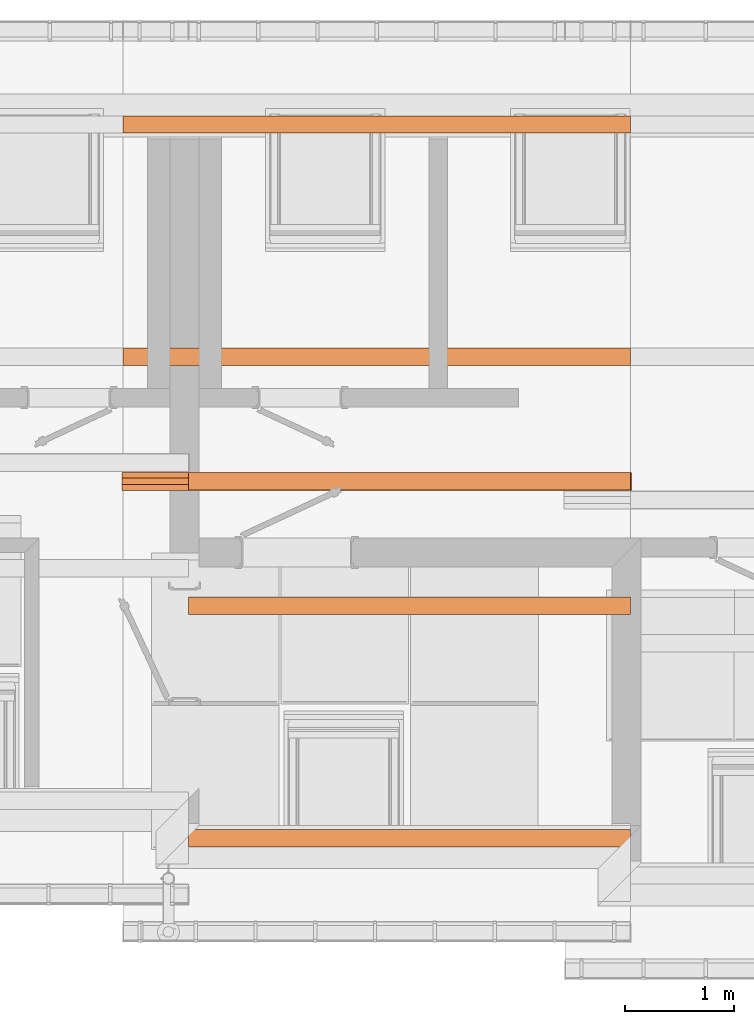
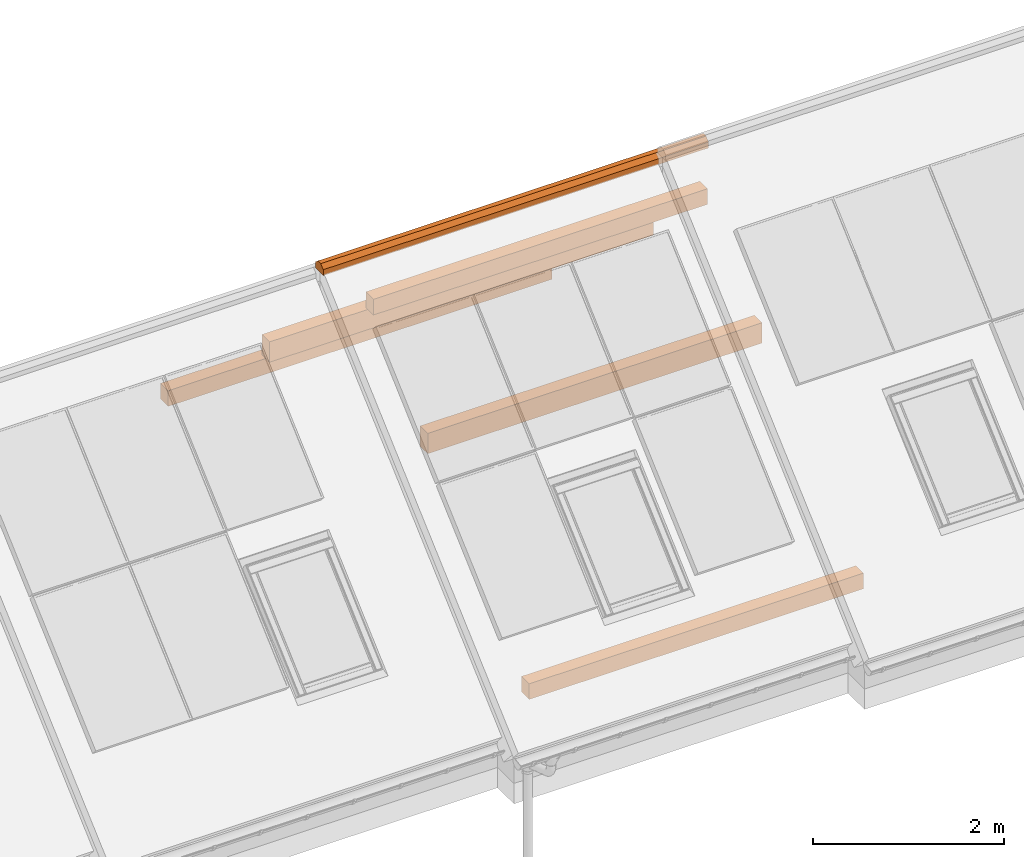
# One storey, part 19 of 43: 6 proxies.
"""IFC2X3 building model written with IfcOpenShell, lengths in millimetres."""

import ifcopenshell
import ifcopenshell.guid

model = None  # the IFC model being written
_history = None  # IfcOwnerHistory: only IFC2X3 demands one
_inside = {}  # id of a spatial element -> (the spatial element, [elements in it])
_under = {}  # id of a project, library or spatial element -> (it, [spatial elements below it])
_declared = {}  # id of a project -> (the project, [libraries it declares])
_typed = {}  # id of a type object -> (the type object, [elements of that type])
_made_of = {}  # id of a material, layer set ... -> (it, [elements and type objects made of it])


def new_model(schema):
    """Start an empty IFC model of exactly this schema.

    Asked for "IFC4X3", IfcOpenShell would pick the latest addendum, in which some entities
    have other attributes; the version numbers below select the first issue.
    IFC2X3 requires an IfcOwnerHistory on every rooted entity: one is made here for all.
    """
    global model, _history
    if schema == "IFC4X3":
        model = ifcopenshell.file(schema_version=(4, 3, 0, 0))
    else:
        model = ifcopenshell.file(schema=schema)
    _inside.clear()
    _under.clear()
    _declared.clear()
    _typed.clear()
    _made_of.clear()
    _history = None
    if model.schema == "IFC2X3":
        org = make("IfcOrganization", Name="unknown")
        user = make(
            "IfcPersonAndOrganization",
            ThePerson=make("IfcPerson", FamilyName="unknown"),
            TheOrganization=org,
        )
        app = make(
            "IfcApplication",
            ApplicationDeveloper=org,
            Version="unknown",
            ApplicationFullName="unknown",
            ApplicationIdentifier="unknown",
        )
        _history = make(
            "IfcOwnerHistory",
            OwningUser=user,
            OwningApplication=app,
            ChangeAction="ADDED",
            CreationDate=0,
        )
    return model


def make(cls, **values):
    """One entity of the class cls with the attributes given. An attribute that is None is left unset."""
    return model.create_entity(
        cls, **{name: value for name, value in values.items() if value is not None}
    )


def rooted(cls, **values):
    """An entity with a GlobalId (a new one), such as an element, a storey or a relation."""
    return make(cls, GlobalId=ifcopenshell.guid.new(), OwnerHistory=_history, **values)


def si_unit(unit_type, name, prefix=None):
    """IfcSIUnit, for example si_unit("LENGTHUNIT", "METRE", prefix="MILLI")."""
    return make("IfcSIUnit", UnitType=unit_type, Prefix=prefix, Name=name)


def assignment(units):
    """IfcUnitAssignment: the units of a project."""
    return None if units is None else make("IfcUnitAssignment", Units=units)


def point(xyz):
    """IfcCartesianPoint."""
    return None if xyz is None else make("IfcCartesianPoint", Coordinates=xyz)


def direction(xyz):
    """IfcDirection."""
    return None if xyz is None else make("IfcDirection", DirectionRatios=xyz)


def frame(location, z_axis=None, x_axis=None):
    """IfcAxis2Placement3D, a coordinate frame: its origin and axes. An axis left out is left unset."""
    return make(
        "IfcAxis2Placement3D",
        Location=point(location),
        Axis=direction(z_axis),
        RefDirection=direction(x_axis),
    )


def origin_with_axes():
    """The frame at (0, 0, 0) with the z axis (0, 0, 1) and the x axis (1, 0, 0) written out."""
    return frame((0.0, 0.0, 0.0), z_axis=(0.0, 0.0, 1.0), x_axis=(1.0, 0.0, 0.0))


def place(relative_to, where):
    """IfcLocalPlacement: puts the frame where relative to a parent placement (None: the world)."""
    return make(
        "IfcLocalPlacement", PlacementRelTo=relative_to, RelativePlacement=where
    )


def context(
    kind, dimensions, precision=None, world=None, true_north=None, identifier=None
):
    """IfcGeometricRepresentationContext, for example the 3D "Model" context."""
    return make(
        "IfcGeometricRepresentationContext",
        ContextIdentifier=identifier,
        ContextType=kind,
        CoordinateSpaceDimension=dimensions,
        Precision=precision,
        WorldCoordinateSystem=world,
        TrueNorth=true_north,
    )


def project(units=None, contexts=None):
    """IfcProject with its units and contexts."""
    return rooted(
        "IfcProject",
        Name="project",
        RepresentationContexts=contexts,
        UnitsInContext=assignment(units),
    )


def spatial(cls, under=None, at=None, **own):
    """A site, building, storey or space (cls), placed at a placement, below another one or the project."""
    s = rooted(cls, ObjectPlacement=at, **own)
    if under is not None:
        _under.setdefault(under.id(), (under, []))[1].append(s)
    return s


def faces_of(points, faces, orient=None, outer=None):
    """IfcFace entities. A face is a list of loops; a loop is a list of indices into points, from 0.

    orient and outer hold one flag for each loop. By default every Orientation is true, the
    first loop of a face is its IfcFaceOuterBound and the others are IfcFaceBound.
    """
    made = []
    for i, loops in enumerate(faces):
        bounds = []
        for j, loop in enumerate(loops):
            is_outer = j == 0 if outer is None else outer[i][j]
            bounds.append(
                make(
                    "IfcFaceOuterBound" if is_outer else "IfcFaceBound",
                    Bound=make("IfcPolyLoop", Polygon=[points[k] for k in loop]),
                    Orientation=True if orient is None else orient[i][j],
                )
            )
        made.append(make("IfcFace", Bounds=bounds))
    return made


def faceted_brep(points, faces, orient=None, outer=None, voids=None):
    """IfcFacetedBrep: a solid bounded by flat faces; with voids (closed shells), ...WithVoids."""
    shared = [point(p) for p in points]
    hull = make("IfcClosedShell", CfsFaces=faces_of(shared, faces, orient, outer))
    if voids is None:
        return make("IfcFacetedBrep", Outer=hull)
    return make(
        "IfcFacetedBrepWithVoids",
        Outer=hull,
        Voids=[
            make(cls, CfsFaces=faces_of(shared, fs, o, b)) for cls, fs, o, b in voids
        ],
    )


def shape(context_of_items, identifier, shape_type, items):
    """IfcShapeRepresentation: the items that make up one representation, for example the "Body"."""
    return make(
        "IfcShapeRepresentation",
        ContextOfItems=context_of_items,
        RepresentationIdentifier=identifier,
        RepresentationType=shape_type,
        Items=items,
    )


def made_of(thing, what):
    """Note that an element or type object is made of a material, layer set ...; save() writes the relation."""
    if what is not None:
        _made_of.setdefault(what.id(), (what, []))[1].append(thing)
    return thing


def element(
    cls,
    number,
    at=None,
    inside=None,
    cuts=None,
    type_object=None,
    material=None,
    context=None,
    identifier="Body",
    shape_type=None,
    held_by="IfcProductDefinitionShape",
    body=None,
    shapes=None,
    **own,
):
    """One element of the class cls, such as IfcWall. Its Tag is "e" and its number.

    at: its placement. inside: the storey or other place that contains it. cuts: it is an
    opening in that element (IfcRelVoidsElement). A single representation is given by context,
    identifier, shape_type and body (its items); several are given by shapes. held_by: the class
    of the entity that holds the representations. save() writes the other relations.
    """
    e = rooted(cls, Tag="e%d" % number, ObjectPlacement=at, **own)
    if body is not None:
        shapes = [shape(context, identifier, shape_type, body)]
    if shapes is not None:
        e.Representation = make(held_by, Representations=shapes)
    if inside is not None:
        _inside.setdefault(inside.id(), (inside, []))[1].append(e)
    if cuts is not None:
        rooted(
            "IfcRelVoidsElement", RelatingBuildingElement=cuts, RelatedOpeningElement=e
        )
    if type_object is not None:
        _typed.setdefault(type_object.id(), (type_object, []))[1].append(e)
    return made_of(e, material)


def aggregate(whole, parts):
    """IfcRelAggregates: a whole, such as a stair, and the parts it consists of."""
    return rooted("IfcRelAggregates", RelatingObject=whole, RelatedObjects=parts)


def save(model, path):
    """Write the relations noted so far, then the file.

    IfcRelAggregates (storeys below a building ...), IfcRelContainedInSpatialStructure (elements
    in a storey), IfcRelDefinesByType, IfcRelAssociatesMaterial and IfcRelDeclares: one each for
    every whole, place, type object, material and project.
    """
    for whole, parts in _under.values():
        aggregate(whole, parts)
    for where, things in _inside.values():
        rooted(
            "IfcRelContainedInSpatialStructure",
            RelatedElements=things,
            RelatingStructure=where,
        )
    for kind, things in _typed.values():
        rooted("IfcRelDefinesByType", RelatedObjects=things, RelatingType=kind)
    for what, things in _made_of.values():
        rooted("IfcRelAssociatesMaterial", RelatedObjects=things, RelatingMaterial=what)
    for by, libraries in _declared.values():
        rooted("IfcRelDeclares", RelatingContext=by, RelatedDefinitions=libraries)
    model.write(path)


model = new_model("IFC2X3")

# Units and contexts
model_context = context("Model", 3, world=origin_with_axes())
ifc_project = project(units=[si_unit("LENGTHUNIT", "METRE", prefix="MILLI")], contexts=[model_context])

# Site, building, storey
site_placement = place(None, origin_with_axes())
site = spatial("IfcSite", under=ifc_project, at=site_placement, Name="Site", CompositionType="ELEMENT")
building_placement = place(site_placement, origin_with_axes())
building = spatial("IfcBuilding", under=site, at=building_placement, Name="?", CompositionType="ELEMENT")
storey_placement = place(building_placement, frame((0.0, 0.0, 5938.0), z_axis=(0.0, 0.0, 1.0), x_axis=(1.0, 0.0, 0.0)))
storey = spatial("IfcBuildingStorey", under=building, at=storey_placement, Name="Dachgeschoß", CompositionType="ELEMENT", Elevation=5938.0)

# Proxies
proxy_1_placement = place(None, origin_with_axes())
element("IfcBuildingElementProxy", 1, at=proxy_1_placement, inside=storey, Name="Dach02_RidgeStones#001", ObjectType="ridgestone", CompositionType="ELEMENT", context=model_context, shape_type="Brep", body=[
    faceted_brep([(9190.0, -3632.0, 10526.7060546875), (9190.0, -3632.0, 10451.7060546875), (13860.0, -3632.0, 10451.7060546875), (13860.0, -3632.0, 10526.7060546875), (9190.0, -3579.0, 10571.7060546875), (9190.0, -3632.00000239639, 10526.7060517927), (13860.0, -3632.00000239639, 10526.7060517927), (13860.0, -3579.0, 10571.7060546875), (9190.0, -3519.0, 10571.7060546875), (9190.0, -3579.0, 10571.7060546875), (13860.0, -3579.0, 10571.7060546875), (13860.0, -3519.0, 10571.7060546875), (9190.0, -3466.0, 10526.7060546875), (9190.0, -3519.00000239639, 10571.7060575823), (13860.0, -3519.00000239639, 10571.7060575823), (13860.0, -3466.0, 10526.7060546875), (9190.0, -3466.0, 10451.7060546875), (9190.0, -3466.0, 10526.7060546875), (13860.0, -3466.0, 10526.7060546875), (13860.0, -3466.0, 10451.7060546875), (9190.0, -3632.0, 10451.7060546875), (9190.0, -3466.0, 10451.7060546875), (13860.0, -3466.0, 10451.7060546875), (13860.0, -3632.0, 10451.7060546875), (9190.0, -3466.0, 10451.7060546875), (9190.0, -3632.0, 10451.7060546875), (9190.0, -3632.0, 10526.7060546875), (9190.0, -3579.0, 10571.7060546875), (9190.0, -3519.0, 10571.7060546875), (9190.0, -3466.0, 10526.7060546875), (13860.0, -3632.0, 10451.7060546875), (13860.0, -3466.0, 10451.7060546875), (13860.0, -3466.0, 10526.7060546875), (13860.0, -3519.0, 10571.7060546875), (13860.0, -3579.0, 10571.7060546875), (13860.0, -3632.0, 10526.7060546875)], [[[0, 1, 2, 3]], [[4, 5, 6, 7]], [[8, 9, 10, 11]], [[12, 13, 14, 15]], [[16, 17, 18, 19]], [[20, 21, 22, 23]], [[24, 25, 26, 27, 28, 29]], [[30, 31, 32, 33, 34, 35]]]),
])
proxy_2_placement = place(None, origin_with_axes())
element("IfcBuildingElementProxy", 2, at=proxy_2_placement, inside=storey, Name="Dach02_RidgePurlin#001", ObjectType="purlin", CompositionType="ELEMENT", context=model_context, shape_type="Brep", body=[
    faceted_brep([(9800.0, -3629.0, 9731.4208984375), (13850.0, -3629.0, 9731.4208984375), (13850.0, -3629.0, 9931.4208984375), (9800.0, -3629.0, 9931.4208984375), (9800.0, -3629.0, 9731.4208984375), (9800.0, -3629.0, 9931.4208984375), (9800.0, -3469.0, 9931.4208984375), (9800.0, -3469.0, 9731.4208984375), (13850.0, -3629.0, 9731.4208984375), (9800.0, -3629.0, 9731.4208984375), (9800.0, -3469.0, 9731.4208984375), (13850.0, -3469.0, 9731.4208984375), (13850.0, -3629.0, 9931.4208984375), (13850.0, -3629.0, 9731.4208984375), (13850.0, -3469.0, 9731.4208984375), (13850.0, -3469.0, 9931.4208984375), (9800.0, -3629.0, 9931.4208984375), (13850.0, -3629.0, 9931.4208984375), (13850.0, -3469.0, 9931.4208984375), (9800.0, -3469.0, 9931.4208984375), (9800.0, -3469.0, 9731.4208984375), (9800.0, -3469.0, 9931.4208984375), (13850.0, -3469.0, 9931.4208984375), (13850.0, -3469.0, 9731.4208984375)], [[[0, 1, 2, 3]], [[4, 5, 6, 7]], [[8, 9, 10, 11]], [[12, 13, 14, 15]], [[16, 17, 18, 19]], [[20, 21, 22, 23]]]),
])
proxy_3_placement = place(None, origin_with_axes())
element("IfcBuildingElementProxy", 3, at=proxy_3_placement, inside=storey, Name="Dach02_MiddlePurlin#001", ObjectType="purlin", CompositionType="ELEMENT", context=model_context, shape_type="Brep", body=[
    faceted_brep([(13850.0, -4608.96435546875, 8644.9921875), (9800.0, -4608.96435546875, 8644.9921875), (9800.0, -4608.96435546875, 8904.9921875), (13850.0, -4608.96435546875, 8904.9921875), (13850.0, -4608.96435546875, 8644.9921875), (13850.0, -4608.96435546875, 8904.9921875), (13850.0, -4768.96435546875, 8904.9921875), (13850.0, -4768.96435546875, 8644.9921875), (9800.0, -4608.96435546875, 8644.9921875), (13850.0, -4608.96435546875, 8644.9921875), (13850.0, -4768.96435546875, 8644.9921875), (9800.0, -4768.96435546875, 8644.9921875), (9800.0, -4608.96435546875, 8904.9921875), (9800.0, -4608.96435546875, 8644.9921875), (9800.0, -4768.96435546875, 8644.9921875), (9800.0, -4768.96435546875, 8904.9921875), (13850.0, -4608.96435546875, 8904.9921875), (9800.0, -4608.96435546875, 8904.9921875), (9800.0, -4768.96435546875, 8904.9921875), (13850.0, -4768.96435546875, 8904.9921875), (13850.0, -4768.96435546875, 8644.9921875), (13850.0, -4768.96435546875, 8904.9921875), (9800.0, -4768.96435546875, 8904.9921875), (9800.0, -4768.96435546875, 8644.9921875)], [[[0, 1, 2, 3]], [[4, 5, 6, 7]], [[8, 9, 10, 11]], [[12, 13, 14, 15]], [[16, 17, 18, 19]], [[20, 21, 22, 23]]]),
])
proxy_4_placement = place(None, origin_with_axes())
element("IfcBuildingElementProxy", 4, at=proxy_4_placement, inside=storey, Name="Dach02_MiddlePurlin#002", ObjectType="purlin", CompositionType="ELEMENT", context=model_context, shape_type="Brep", body=[
    faceted_brep([(9200.0, -2489.03588867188, 8644.9921875), (13850.0, -2489.03588867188, 8644.9921875), (13850.0, -2489.03588867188, 8904.9921875), (9200.0, -2489.03588867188, 8904.9921875), (9200.0, -2489.03588867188, 8644.9921875), (9200.0, -2489.03588867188, 8904.9921875), (9200.0, -2329.03588867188, 8904.9921875), (9200.0, -2329.03588867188, 8644.9921875), (13850.0, -2489.03588867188, 8644.9921875), (9200.0, -2489.03588867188, 8644.9921875), (9200.0, -2329.03588867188, 8644.9921875), (13850.0, -2329.03588867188, 8644.9921875), (13850.0, -2489.03588867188, 8904.9921875), (13850.0, -2489.03588867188, 8644.9921875), (13850.0, -2329.03588867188, 8644.9921875), (13850.0, -2329.03588867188, 8904.9921875), (9200.0, -2489.03588867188, 8904.9921875), (13850.0, -2489.03588867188, 8904.9921875), (13850.0, -2329.03588867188, 8904.9921875), (9200.0, -2329.03588867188, 8904.9921875), (9200.0, -2329.03588867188, 8644.9921875), (9200.0, -2329.03588867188, 8904.9921875), (13850.0, -2329.03588867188, 8904.9921875), (13850.0, -2329.03588867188, 8644.9921875)], [[[0, 1, 2, 3]], [[4, 5, 6, 7]], [[8, 9, 10, 11]], [[12, 13, 14, 15]], [[16, 17, 18, 19]], [[20, 21, 22, 23]]]),
])
proxy_5_placement = place(None, origin_with_axes())
element("IfcBuildingElementProxy", 5, at=proxy_5_placement, inside=storey, Name="Dach02_KneePurlin#001", ObjectType="purlin", CompositionType="ELEMENT", context=model_context, shape_type="Brep", body=[
    faceted_brep([(13850.0, -6738.0, 6787.99951171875), (9800.0, -6738.0, 6787.99951171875), (9800.0, -6738.0, 6987.99951171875), (13850.0, -6738.0, 6987.99951171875), (13850.0, -6738.0, 6787.99951171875), (13850.0, -6738.0, 6987.99951171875), (13850.0, -6898.0, 6987.99951171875), (13850.0, -6898.0, 6787.99951171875), (9800.0, -6738.0, 6787.99951171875), (13850.0, -6738.0, 6787.99951171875), (13850.0, -6898.0, 6787.99951171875), (9800.0, -6898.0, 6787.99951171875), (9800.0, -6738.0, 6987.99951171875), (9800.0, -6738.0, 6787.99951171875), (9800.0, -6898.0, 6787.99951171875), (9800.0, -6898.0, 6987.99951171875), (13850.0, -6738.0, 6987.99951171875), (9800.0, -6738.0, 6987.99951171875), (9800.0, -6898.0, 6987.99951171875), (13850.0, -6898.0, 6987.99951171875), (13850.0, -6898.0, 6787.99951171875), (13850.0, -6898.0, 6987.99951171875), (9800.0, -6898.0, 6987.99951171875), (9800.0, -6898.0, 6787.99951171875)], [[[0, 1, 2, 3]], [[4, 5, 6, 7]], [[8, 9, 10, 11]], [[12, 13, 14, 15]], [[16, 17, 18, 19]], [[20, 21, 22, 23]]]),
])
proxy_6_placement = place(None, origin_with_axes())
element("IfcBuildingElementProxy", 6, at=proxy_6_placement, inside=storey, Name="Dach02_KneePurlin#002", ObjectType="purlin", CompositionType="ELEMENT", context=model_context, shape_type="Brep", body=[
    faceted_brep([(9200.0, -360.0, 6788.0), (13850.0, -360.0, 6788.0), (13850.0, -360.0, 6988.0), (9200.0, -360.0, 6988.0), (9200.0, -360.0, 6788.0), (9200.0, -360.0, 6988.0), (9200.0, -200.0, 6988.0), (9200.0, -200.0, 6788.0), (13850.0, -360.0, 6788.0), (9200.0, -360.0, 6788.0), (9200.0, -200.0, 6788.0), (13850.0, -200.0, 6788.0), (13850.0, -360.0, 6988.0), (13850.0, -360.0, 6788.0), (13850.0, -200.0, 6788.0), (13850.0, -200.0, 6988.0), (9200.0, -360.0, 6988.0), (13850.0, -360.0, 6988.0), (13850.0, -200.0, 6988.0), (9200.0, -200.0, 6988.0), (9200.0, -200.0, 6788.0), (9200.0, -200.0, 6988.0), (13850.0, -200.0, 6988.0), (13850.0, -200.0, 6788.0)], [[[0, 1, 2, 3]], [[4, 5, 6, 7]], [[8, 9, 10, 11]], [[12, 13, 14, 15]], [[16, 17, 18, 19]], [[20, 21, 22, 23]]]),
])

save(model, "model.ifc")
